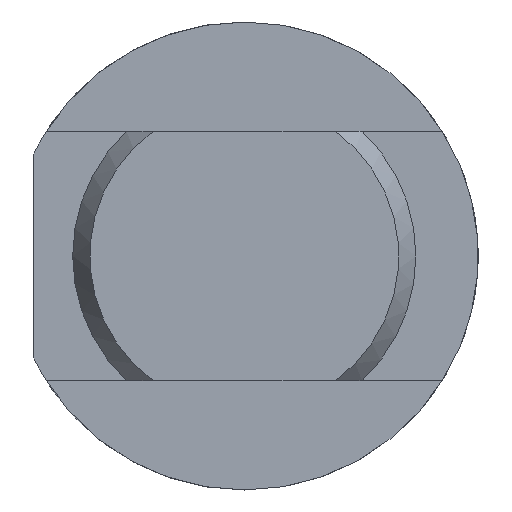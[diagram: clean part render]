
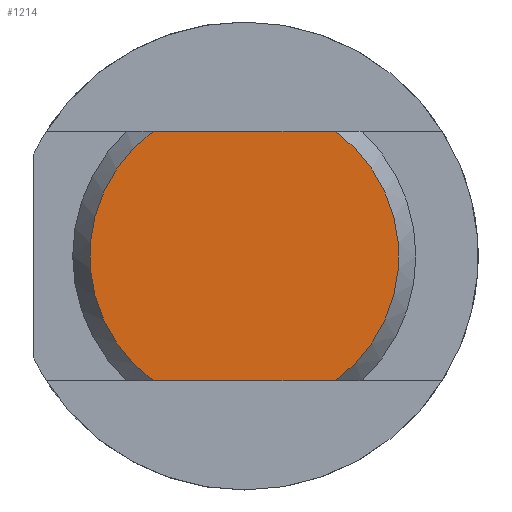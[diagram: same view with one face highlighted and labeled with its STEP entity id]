
A CAD part, left-side view. The second image highlights one B-rep face of the part: STEP entity #1214.
In plain terms, the highlighted planar face has unit normal (-1, 0, 0).
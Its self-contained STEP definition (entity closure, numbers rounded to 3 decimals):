
#20 = VERTEX_POINT ( 'NONE', #1010 ) ;
#233 = CARTESIAN_POINT ( 'NONE',  ( 0., -5.832, -8. ) ) ;
#312 = LINE ( 'NONE', #2936, #3308 ) ;
#330 = VERTEX_POINT ( 'NONE', #1931 ) ;
#655 = EDGE_CURVE ( 'NONE', #330, #3893, #312, .T. ) ;
#673 = EDGE_CURVE ( 'NONE', #4982, #330, #3428, .T. ) ;
#818 = AXIS2_PLACEMENT_3D ( 'NONE', #5092, #4414, #4065 ) ;
#927 = EDGE_LOOP ( 'NONE', ( #1975, #4591, #3233, #2625 ) ) ;
#1010 = CARTESIAN_POINT ( 'NONE',  ( 0., 5.832, -8. ) ) ;
#1204 = DIRECTION ( 'NONE',  ( -1., 0., 0. ) ) ;
#1214 = ADVANCED_FACE ( 'NONE', ( #5169 ), #2003, .T. ) ;
#1931 = CARTESIAN_POINT ( 'NONE',  ( 0., -5.832, 8. ) ) ;
#1975 = ORIENTED_EDGE ( 'NONE', *, *, #3504, .T. ) ;
#1984 = CARTESIAN_POINT ( 'NONE',  ( 0., 0., 0. ) ) ;
#2003 = PLANE ( 'NONE',  #3310 ) ;
#2422 = CARTESIAN_POINT ( 'NONE',  ( 0., 0., 0. ) ) ;
#2585 = CARTESIAN_POINT ( 'NONE',  ( 0., 13.5, -8. ) ) ;
#2625 = ORIENTED_EDGE ( 'NONE', *, *, #4437, .F. ) ;
#2710 = VECTOR ( 'NONE', #3809, 1000. ) ;
#2936 = CARTESIAN_POINT ( 'NONE',  ( 0., 13.5, 8. ) ) ;
#3023 = LINE ( 'NONE', #2585, #2710 ) ;
#3233 = ORIENTED_EDGE ( 'NONE', *, *, #655, .T. ) ;
#3235 = DIRECTION ( 'NONE',  ( 0., 0., -1. ) ) ;
#3263 = CIRCLE ( 'NONE', #4530, 9.9 ) ;
#3308 = VECTOR ( 'NONE', #3751, 1000. ) ;
#3310 = AXIS2_PLACEMENT_3D ( 'NONE', #1984, #1204, #3590 ) ;
#3428 = CIRCLE ( 'NONE', #818, 9.9 ) ;
#3504 = EDGE_CURVE ( 'NONE', #20, #4982, #3023, .T. ) ;
#3590 = DIRECTION ( 'NONE',  ( 0., 0., 1. ) ) ;
#3751 = DIRECTION ( 'NONE',  ( 0., 1., 0. ) ) ;
#3809 = DIRECTION ( 'NONE',  ( 0., -1., 0. ) ) ;
#3893 = VERTEX_POINT ( 'NONE', #4838 ) ;
#4065 = DIRECTION ( 'NONE',  ( 0., 1., 0. ) ) ;
#4414 = DIRECTION ( 'NONE',  ( -1., 0., 0. ) ) ;
#4437 = EDGE_CURVE ( 'NONE', #20, #3893, #3263, .T. ) ;
#4530 = AXIS2_PLACEMENT_3D ( 'NONE', #2422, #5276, #3235 ) ;
#4591 = ORIENTED_EDGE ( 'NONE', *, *, #673, .T. ) ;
#4838 = CARTESIAN_POINT ( 'NONE',  ( 0., 5.832, 8. ) ) ;
#4982 = VERTEX_POINT ( 'NONE', #233 ) ;
#5092 = CARTESIAN_POINT ( 'NONE',  ( 0., 0., 0. ) ) ;
#5169 = FACE_OUTER_BOUND ( 'NONE', #927, .T. ) ;
#5276 = DIRECTION ( 'NONE',  ( 1., 0., 0. ) ) ;
